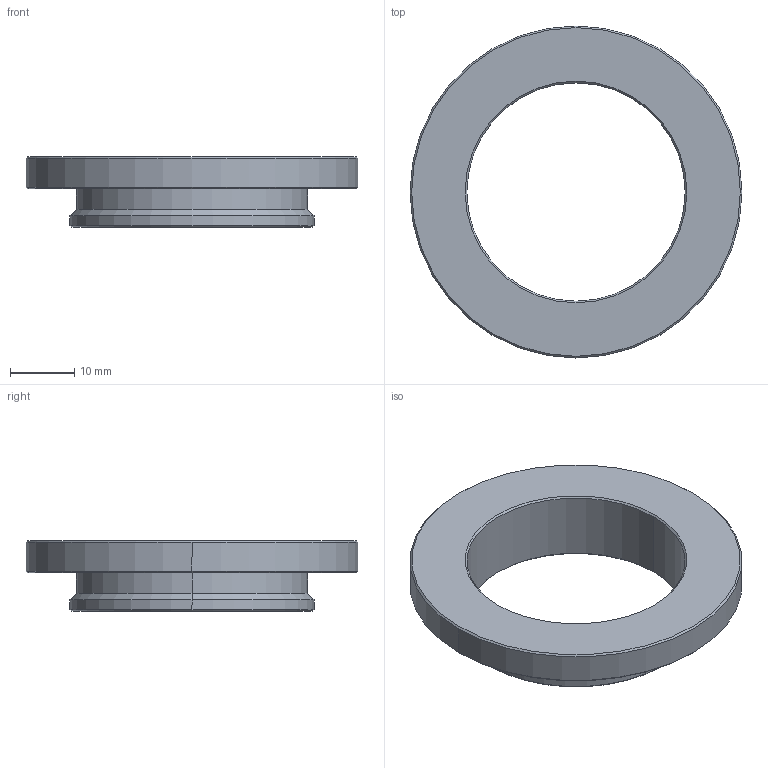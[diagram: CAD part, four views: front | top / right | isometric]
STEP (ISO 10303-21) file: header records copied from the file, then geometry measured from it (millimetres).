
FILE_DESCRIPTION (( 'STEP AP214' ), '1' );
FILE_NAME ('C60-SM2-M (RING-SM2 - MALE ADAPTER) (CATALOG MODEL).STEP', '2026-07-29T21:15:10', ( '' ), ( '' ), 'SwSTEP 2.0', 'SolidWorks 2025', '' );
FILE_SCHEMA (( 'AUTOMOTIVE_DESIGN' ));
Length unit declared in the file: inch
Products named in the file (1): C60-SM2-M (RING-SM2 - MALE ADAPTER) (CATALOG MODEL)
Bounding box: 51.69 x 51.69 x 11 mm (x, y, z)
Volume: 6853.4 mm3; surface area: 5127.6 mm2
Topology: 1 solids, 1 shells, 23 faces, 46 edges, 26 vertices
Faces by surface type: cone 12, cylinder 8, plane 3
Entity records: 625 total; most frequent: DIRECTION 120, CARTESIAN_POINT 96, ORIENTED_EDGE 92, AXIS2_PLACEMENT_3D 50, EDGE_CURVE 46, VERTEX_POINT 26, CIRCLE 26, EDGE_LOOP 26
